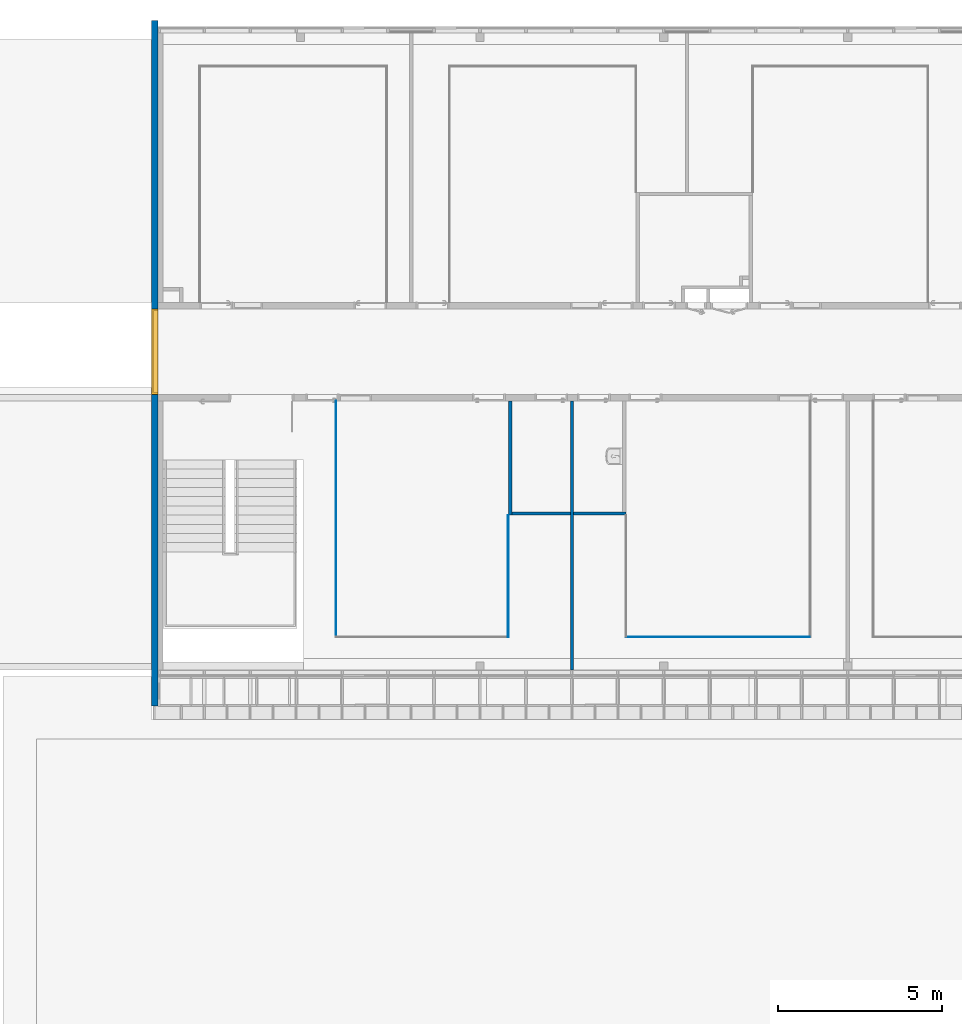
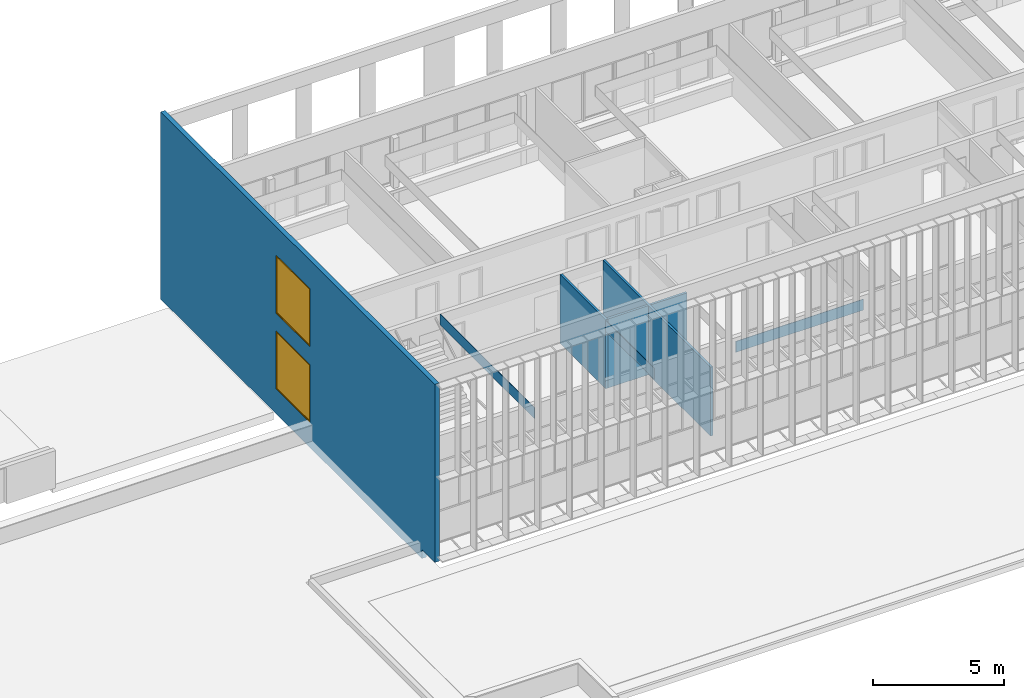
"""IFC2X3 building model written with IfcOpenShell, lengths in centimetres."""

import ifcopenshell
import ifcopenshell.guid

model = None  # the IFC model being written
_history = None  # IfcOwnerHistory: only IFC2X3 demands one
_inside = {}  # id of a spatial element -> (the spatial element, [elements in it])
_under = {}  # id of a project, library or spatial element -> (it, [spatial elements below it])
_declared = {}  # id of a project -> (the project, [libraries it declares])
_typed = {}  # id of a type object -> (the type object, [elements of that type])
_made_of = {}  # id of a material, layer set ... -> (it, [elements and type objects made of it])


def new_model(schema):
    """Start an empty IFC model of exactly this schema.

    Asked for "IFC4X3", IfcOpenShell would pick the latest addendum, in which some entities
    have other attributes; the version numbers below select the first issue.
    IFC2X3 requires an IfcOwnerHistory on every rooted entity: one is made here for all.
    """
    global model, _history
    if schema == "IFC4X3":
        model = ifcopenshell.file(schema_version=(4, 3, 0, 0))
    else:
        model = ifcopenshell.file(schema=schema)
    _inside.clear()
    _under.clear()
    _declared.clear()
    _typed.clear()
    _made_of.clear()
    _history = None
    if model.schema == "IFC2X3":
        org = make("IfcOrganization", Name="unknown")
        user = make(
            "IfcPersonAndOrganization",
            ThePerson=make("IfcPerson", FamilyName="unknown"),
            TheOrganization=org,
        )
        app = make(
            "IfcApplication",
            ApplicationDeveloper=org,
            Version="unknown",
            ApplicationFullName="unknown",
            ApplicationIdentifier="unknown",
        )
        _history = make(
            "IfcOwnerHistory",
            OwningUser=user,
            OwningApplication=app,
            ChangeAction="ADDED",
            CreationDate=0,
        )
    return model


def make(cls, **values):
    """One entity of the class cls with the attributes given. An attribute that is None is left unset."""
    return model.create_entity(
        cls, **{name: value for name, value in values.items() if value is not None}
    )


def entity(cls, *values):
    """Any entity or typed value of the class cls, its attributes in the order of the schema. None: left unset."""
    e = model.create_entity(cls)
    for i, value in enumerate(values):
        if value is not None:
            e[i] = value
    return e


def rooted(cls, **values):
    """An entity with a GlobalId (a new one), such as an element, a storey or a relation."""
    return make(cls, GlobalId=ifcopenshell.guid.new(), OwnerHistory=_history, **values)


def si_unit(unit_type, name, prefix=None):
    """IfcSIUnit, for example si_unit("LENGTHUNIT", "METRE", prefix="MILLI")."""
    return make("IfcSIUnit", UnitType=unit_type, Prefix=prefix, Name=name)


def converted_unit(unit_type, name, factor, base, dimensions=None, offset=None):
    """IfcConversionBasedUnit, such as the inch: factor (a typed value) times the base unit."""
    return make(
        "IfcConversionBasedUnit"
        if offset is None
        else "IfcConversionBasedUnitWithOffset",
        ConversionOffset=offset,
        Dimensions=None
        if dimensions is None
        else entity("IfcDimensionalExponents", *dimensions),
        UnitType=unit_type,
        Name=name,
        ConversionFactor=make(
            "IfcMeasureWithUnit", ValueComponent=factor, UnitComponent=base
        ),
    )


def derived_unit(unit_type, elements):
    """IfcDerivedUnit: a product of units, each with its exponent."""
    return make(
        "IfcDerivedUnit",
        Elements=[
            make("IfcDerivedUnitElement", Unit=unit, Exponent=power)
            for unit, power in elements
        ],
        UnitType=unit_type,
    )


def assignment(units):
    """IfcUnitAssignment: the units of a project."""
    return None if units is None else make("IfcUnitAssignment", Units=units)


def point(xyz):
    """IfcCartesianPoint."""
    return None if xyz is None else make("IfcCartesianPoint", Coordinates=xyz)


def direction(xyz):
    """IfcDirection."""
    return None if xyz is None else make("IfcDirection", DirectionRatios=xyz)


def frame(location, z_axis=None, x_axis=None):
    """IfcAxis2Placement3D, a coordinate frame: its origin and axes. An axis left out is left unset."""
    return make(
        "IfcAxis2Placement3D",
        Location=point(location),
        Axis=direction(z_axis),
        RefDirection=direction(x_axis),
    )


def frame_2d(location, x_axis=None):
    """IfcAxis2Placement2D, a coordinate frame in the plane: its origin and x axis."""
    return make(
        "IfcAxis2Placement2D", Location=point(location), RefDirection=direction(x_axis)
    )


def origin():
    """The frame at (0, 0, 0) with its axes left unset."""
    return frame((0.0, 0.0, 0.0))


def place(relative_to, where):
    """IfcLocalPlacement: puts the frame where relative to a parent placement (None: the world)."""
    return make(
        "IfcLocalPlacement", PlacementRelTo=relative_to, RelativePlacement=where
    )


def context(
    kind, dimensions, precision=None, world=None, true_north=None, identifier=None
):
    """IfcGeometricRepresentationContext, for example the 3D "Model" context."""
    return make(
        "IfcGeometricRepresentationContext",
        ContextIdentifier=identifier,
        ContextType=kind,
        CoordinateSpaceDimension=dimensions,
        Precision=precision,
        WorldCoordinateSystem=world,
        TrueNorth=true_north,
    )


def subcontext(parent, identifier, kind, view, scale=None):
    """IfcGeometricRepresentationSubContext, for example "Body" below "Model"."""
    return make(
        "IfcGeometricRepresentationSubContext",
        ContextIdentifier=identifier,
        ContextType=kind,
        ParentContext=parent,
        TargetScale=scale,
        TargetView=view,
    )


def project(units=None, contexts=None):
    """IfcProject with its units and contexts."""
    return rooted(
        "IfcProject",
        Name="project",
        RepresentationContexts=contexts,
        UnitsInContext=assignment(units),
    )


def spatial(cls, under=None, at=None, **own):
    """A site, building, storey or space (cls), placed at a placement, below another one or the project."""
    s = rooted(cls, ObjectPlacement=at, **own)
    if under is not None:
        _under.setdefault(under.id(), (under, []))[1].append(s)
    return s


def polyline(points):
    """IfcPolyline through the points."""
    return make("IfcPolyline", Points=[point(p) for p in points])


def profile(cls, at=None, kind="AREA", **sizes):
    """A parametric profile (cls). Its sizes go by their IFC names, for example OverallWidth=200.0."""
    return make(cls, ProfileType=kind, Position=at, **sizes)


def rectangle(**sizes):
    """IfcRectangleProfileDef."""
    return profile("IfcRectangleProfileDef", **sizes)


def extrude(swept, where, along, depth):
    """IfcExtrudedAreaSolid: the profile swept, set in the frame where, extruded along a direction by depth."""
    return make(
        "IfcExtrudedAreaSolid",
        SweptArea=swept,
        Position=where,
        ExtrudedDirection=direction(along),
        Depth=depth,
    )


def clip(a, b, op="DIFFERENCE"):
    """IfcBooleanClippingResult: the solid a cut by the half space b."""
    return make(
        "IfcBooleanClippingResult", Operator=op, FirstOperand=a, SecondOperand=b
    )


def bounded_halfspace(plane, agree, where, boundary):
    """IfcPolygonalBoundedHalfSpace: a half space limited to a polygon's prism."""
    return make(
        "IfcPolygonalBoundedHalfSpace",
        BaseSurface=make("IfcPlane", Position=plane),
        AgreementFlag=agree,
        Position=where,
        PolygonalBoundary=boundary,
    )


def faces_of(points, faces, orient=None, outer=None):
    """IfcFace entities. A face is a list of loops; a loop is a list of indices into points, from 0.

    orient and outer hold one flag for each loop. By default every Orientation is true, the
    first loop of a face is its IfcFaceOuterBound and the others are IfcFaceBound.
    """
    made = []
    for i, loops in enumerate(faces):
        bounds = []
        for j, loop in enumerate(loops):
            is_outer = j == 0 if outer is None else outer[i][j]
            bounds.append(
                make(
                    "IfcFaceOuterBound" if is_outer else "IfcFaceBound",
                    Bound=make("IfcPolyLoop", Polygon=[points[k] for k in loop]),
                    Orientation=True if orient is None else orient[i][j],
                )
            )
        made.append(make("IfcFace", Bounds=bounds))
    return made


def faceted_brep(points, faces, orient=None, outer=None, voids=None):
    """IfcFacetedBrep: a solid bounded by flat faces; with voids (closed shells), ...WithVoids."""
    shared = [point(p) for p in points]
    hull = make("IfcClosedShell", CfsFaces=faces_of(shared, faces, orient, outer))
    if voids is None:
        return make("IfcFacetedBrep", Outer=hull)
    return make(
        "IfcFacetedBrepWithVoids",
        Outer=hull,
        Voids=[
            make(cls, CfsFaces=faces_of(shared, fs, o, b)) for cls, fs, o, b in voids
        ],
    )


def shape(context_of_items, identifier, shape_type, items):
    """IfcShapeRepresentation: the items that make up one representation, for example the "Body"."""
    return make(
        "IfcShapeRepresentation",
        ContextOfItems=context_of_items,
        RepresentationIdentifier=identifier,
        RepresentationType=shape_type,
        Items=items,
    )


def source(mapping_origin, context_of_items, identifier, shape_type, items):
    """IfcRepresentationMap: a shape defined once, which mapped items show again and again."""
    return make(
        "IfcRepresentationMap",
        MappingOrigin=mapping_origin,
        MappedRepresentation=shape(context_of_items, identifier, shape_type, items),
    )


def transform(
    local_origin,
    x_axis=None,
    y_axis=None,
    z_axis=None,
    scale=None,
    scale2=None,
    scale3=None,
    uniform=True,
):
    """IfcCartesianTransformationOperator3D, or its non-uniform kind. x_axis, y_axis, z_axis: its Axis1, 2, 3."""
    if uniform:
        return make(
            "IfcCartesianTransformationOperator3D",
            Axis1=direction(x_axis),
            Axis2=direction(y_axis),
            LocalOrigin=point(local_origin),
            Scale=scale,
            Axis3=direction(z_axis),
        )
    return make(
        "IfcCartesianTransformationOperator3DnonUniform",
        Axis1=direction(x_axis),
        Axis2=direction(y_axis),
        LocalOrigin=point(local_origin),
        Scale=scale,
        Axis3=direction(z_axis),
        Scale2=scale2,
        Scale3=scale3,
    )


def mapped(mapping_source, mapping_target):
    """IfcMappedItem: shows the shape of a source again, moved by a transform."""
    return make(
        "IfcMappedItem", MappingSource=mapping_source, MappingTarget=mapping_target
    )


def material(Name=None, Category=None):
    """IfcMaterial."""
    return make("IfcMaterial", Name=Name, Category=Category)


def material_list(materials):
    """IfcMaterialList."""
    return make("IfcMaterialList", Materials=materials)


def layer(
    of_material, thickness, ventilated=None, Name=None, Category=None, Priority=None
):
    """IfcMaterialLayer: one layer of a wall or slab, of a material (None: an air gap)."""
    return make(
        "IfcMaterialLayer",
        Material=of_material,
        LayerThickness=thickness,
        IsVentilated=ventilated,
        Name=Name,
        Category=Category,
        Priority=Priority,
    )


def layer_set(layers, Name=None):
    """IfcMaterialLayerSet."""
    return make("IfcMaterialLayerSet", MaterialLayers=layers, LayerSetName=Name)


def layer_usage(for_layer_set, set_direction, sense, offset, extent=None):
    """IfcMaterialLayerSetUsage: how a layer set lies in its element."""
    return make(
        "IfcMaterialLayerSetUsage",
        ForLayerSet=for_layer_set,
        LayerSetDirection=set_direction,
        DirectionSense=sense,
        OffsetFromReferenceLine=offset,
        ReferenceExtent=extent,
    )


def made_of(thing, what):
    """Note that an element or type object is made of a material, layer set ...; save() writes the relation."""
    if what is not None:
        _made_of.setdefault(what.id(), (what, []))[1].append(thing)
    return thing


def type_object(cls, material=None, **own):
    """A type object (cls), such as IfcWallType, which elements share."""
    return made_of(rooted(cls, **own), material)


def type_shapes(of_type, sources):
    """Give a type object the sources (RepresentationMaps) that its elements show as mapped items."""
    of_type.RepresentationMaps = sources


def element(
    cls,
    number,
    at=None,
    inside=None,
    cuts=None,
    type_object=None,
    material=None,
    context=None,
    identifier="Body",
    shape_type=None,
    held_by="IfcProductDefinitionShape",
    body=None,
    shapes=None,
    **own,
):
    """One element of the class cls, such as IfcWall. Its Tag is "e" and its number.

    at: its placement. inside: the storey or other place that contains it. cuts: it is an
    opening in that element (IfcRelVoidsElement). A single representation is given by context,
    identifier, shape_type and body (its items); several are given by shapes. held_by: the class
    of the entity that holds the representations. save() writes the other relations.
    """
    e = rooted(cls, Tag="e%d" % number, ObjectPlacement=at, **own)
    if body is not None:
        shapes = [shape(context, identifier, shape_type, body)]
    if shapes is not None:
        e.Representation = make(held_by, Representations=shapes)
    if inside is not None:
        _inside.setdefault(inside.id(), (inside, []))[1].append(e)
    if cuts is not None:
        rooted(
            "IfcRelVoidsElement", RelatingBuildingElement=cuts, RelatedOpeningElement=e
        )
    if type_object is not None:
        _typed.setdefault(type_object.id(), (type_object, []))[1].append(e)
    return made_of(e, material)


def fill(opening, filler):
    """IfcRelFillsElement: the door or window that sits in an opening."""
    return rooted(
        "IfcRelFillsElement",
        RelatingOpeningElement=opening,
        RelatedBuildingElement=filler,
    )


def aggregate(whole, parts):
    """IfcRelAggregates: a whole, such as a stair, and the parts it consists of."""
    return rooted("IfcRelAggregates", RelatingObject=whole, RelatedObjects=parts)


def save(model, path):
    """Write the relations noted so far, then the file.

    IfcRelAggregates (storeys below a building ...), IfcRelContainedInSpatialStructure (elements
    in a storey), IfcRelDefinesByType, IfcRelAssociatesMaterial and IfcRelDeclares: one each for
    every whole, place, type object, material and project.
    """
    for whole, parts in _under.values():
        aggregate(whole, parts)
    for where, things in _inside.values():
        rooted(
            "IfcRelContainedInSpatialStructure",
            RelatedElements=things,
            RelatingStructure=where,
        )
    for kind, things in _typed.values():
        rooted("IfcRelDefinesByType", RelatedObjects=things, RelatingType=kind)
    for what, things in _made_of.values():
        rooted("IfcRelAssociatesMaterial", RelatedObjects=things, RelatingMaterial=what)
    for by, libraries in _declared.values():
        rooted("IfcRelDeclares", RelatingContext=by, RelatedDefinitions=libraries)
    model.write(path)


model = new_model("IFC2X3")

# Units and contexts
model_context = context("Model", 3, precision=0.001, world=origin(), true_north=direction((6.12303176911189e-17, 1.0)))
body_context = subcontext(model_context, "Body", "Model", "MODEL_VIEW")
ifc_project = project(units=[si_unit("LENGTHUNIT", "METRE", prefix="CENTI"), si_unit("AREAUNIT", "SQUARE_METRE"), si_unit("VOLUMEUNIT", "CUBIC_METRE"), converted_unit("PLANEANGLEUNIT", "DEGREE", entity("IfcRatioMeasure", 0.0174532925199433), si_unit("PLANEANGLEUNIT", "RADIAN"), dimensions=[0, 0, 0, 0, 0, 0, 0]), si_unit("MASSUNIT", "GRAM", prefix="KILO"), derived_unit("MASSDENSITYUNIT", [(si_unit("MASSUNIT", "GRAM", prefix="KILO"), 1), (si_unit("LENGTHUNIT", "METRE"), -3)]), si_unit("TIMEUNIT", "SECOND"), si_unit("FREQUENCYUNIT", "HERTZ"), si_unit("THERMODYNAMICTEMPERATUREUNIT", "DEGREE_CELSIUS"), derived_unit("THERMALTRANSMITTANCEUNIT", [(si_unit("MASSUNIT", "GRAM", prefix="KILO"), 1), (si_unit("THERMODYNAMICTEMPERATUREUNIT", "KELVIN"), -1), (si_unit("TIMEUNIT", "SECOND"), -3)]), derived_unit("VOLUMETRICFLOWRATEUNIT", [(si_unit("LENGTHUNIT", "METRE"), 3), (si_unit("TIMEUNIT", "SECOND"), -1)]), si_unit("ELECTRICCURRENTUNIT", "AMPERE"), si_unit("ELECTRICVOLTAGEUNIT", "VOLT"), si_unit("POWERUNIT", "WATT"), si_unit("FORCEUNIT", "NEWTON", prefix="KILO"), si_unit("ILLUMINANCEUNIT", "LUX"), si_unit("LUMINOUSFLUXUNIT", "LUMEN"), si_unit("LUMINOUSINTENSITYUNIT", "CANDELA"), derived_unit("USERDEFINED", [(si_unit("MASSUNIT", "GRAM", prefix="KILO"), -1), (si_unit("LENGTHUNIT", "METRE"), -2), (si_unit("TIMEUNIT", "SECOND"), 3), (si_unit("LUMINOUSFLUXUNIT", "LUMEN"), 1)]), derived_unit("LINEARVELOCITYUNIT", [(si_unit("LENGTHUNIT", "METRE"), 1), (si_unit("TIMEUNIT", "SECOND"), -1)]), si_unit("PRESSUREUNIT", "PASCAL"), derived_unit("USERDEFINED", [(si_unit("LENGTHUNIT", "METRE"), -2), (si_unit("MASSUNIT", "GRAM", prefix="KILO"), 1), (si_unit("TIMEUNIT", "SECOND"), -2)])], contexts=[model_context])

# Site, building, storey
site_placement = place(None, frame((-2781.94577612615, 7442.24238424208, 0.0)))
site = spatial("IfcSite", under=ifc_project, at=site_placement, Name="Default", CompositionType="ELEMENT")
building_placement = place(site_placement, origin())
building = spatial("IfcBuilding", under=site, at=building_placement, CompositionType="ELEMENT")
storey_1_placement = place(building_placement, frame((0.0, 0.0, 422.0)))
storey_1 = spatial("IfcBuildingStorey", under=building, at=storey_1_placement, Name="Toiture - Cuisine", CompositionType="ELEMENT", Elevation=421.999999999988)

# Wall, openings, window
ifc_material_1 = material(Name="01 - Maçonnerie")
ifc_layer_1 = layer(ifc_material_1, 20.0)
ifc_layer_set_1 = layer_set([ifc_layer_1], Name="Mur de base:04 - Structure - béton - 20cm")
ifc_layer_usage_1 = layer_usage(ifc_layer_set_1, "AXIS2", "NEGATIVE", 10.0)
wall_type_1 = type_object("IfcWallType", Name="Mur de base:04 - Structure - béton - 20cm", PredefinedType="STANDARD", material=ifc_layer_set_1)
wall_1_placement = place(building_placement, frame((-8419.49987766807, -2040.07903364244, 306.0), z_axis=(0.0, 0.0, 1.0), x_axis=(0.0, 1.0, 0.0)))
wall_1 = element("IfcWallStandardCase", 1, at=wall_1_placement, inside=storey_1, type_object=wall_type_1, material=ifc_layer_usage_1, Name="Mur de base:04 - Structure - béton - 20cm", ObjectType="Mur de base:04 - Structure - béton - 20cm", context=body_context, shape_type="SweptSolid", body=[
    extrude(rectangle(XDim=2088.55021768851, YDim=19.9999999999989, at=frame_2d((1044.27510884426, -6.48370246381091e-14), x_axis=(-1.0, 0.0))), origin(), (0.0, 0.0, 1.0), 870.000000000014),
])
opening_1_placement = place(wall_1_placement, origin())
element("IfcOpeningElement", 2, at=opening_1_placement, cuts=wall_1, Name="Mur de base:04 - Structure - béton - 20cm:4570", ObjectType="Opening", context=body_context, shape_type="SweptSolid", body=[
    extrude(rectangle(XDim=41.9999999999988, YDim=99.9999999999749, at=frame_2d((-1.08357767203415e-13, -1.10134124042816e-13), x_axis=(1.0, 0.0))), frame((50.0, 10.0, 21.0), z_axis=(0.0, -1.0, 0.0), x_axis=(0.0, 0.0, 1.0)), (0.0, 0.0, 1.0), 20.0),
])
opening_2_placement = place(wall_1_placement, frame((1210.03053265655, 10.0, 116.0)))
opening_2 = element("IfcOpeningElement", 3, at=opening_2_placement, cuts=wall_1, Name="châssis intérieur vitré:R+1 - Pignon -  châssis intérieur vitré (2,70m):1", ObjectType="Opening", context=body_context, shape_type="SweptSolid", body=[
    extrude(rectangle(XDim=270.0, YDim=259.951498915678, at=frame_2d((135.0, 129.975749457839), x_axis=(1.0, 0.0))), frame((0.0, 0.0, 0.0), z_axis=(0.0, -1.0, 0.0), x_axis=(0.0, 0.0, 1.0)), (0.0, 0.0, 1.0), 20.0),
])
opening_3_placement = place(wall_1_placement, frame((1210.03053265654, 10.0, 468.0)))
opening_3 = element("IfcOpeningElement", 4, at=opening_3_placement, cuts=wall_1, Name="châssis intérieur vitré:R+1 - Pignon -  châssis intérieur vitré (2,70m):1", ObjectType="Opening", context=body_context, shape_type="SweptSolid", body=[
    extrude(rectangle(XDim=270.0, YDim=259.951498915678, at=frame_2d((135.0, 129.975749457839), x_axis=(1.0, 0.0))), frame((0.0, 0.0, 0.0), z_axis=(0.0, -1.0, 0.0), x_axis=(0.0, 0.0, 1.0)), (0.0, 0.0, 1.0), 20.0),
])
ifc_material_2 = material(Name="Verre")
ifc_material_3 = material(Name="huisserie bois")
ifc_material_list_1 = material_list([ifc_material_2, ifc_material_3])
ifc_material_list_2 = material_list([ifc_material_2, ifc_material_3])
window_style = type_object("IfcWindowStyle", Name="R+1 - Pignon -  châssis intérieur vitré (2,70m)", ConstructionType="NOTDEFINED", OperationType="NOTDEFINED", ParameterTakesPrecedence=False, Sizeable=False, material=ifc_material_list_2)
shared_shape = source(origin(), body_context, "Body", "Brep", [
    faceted_brep([(256.951498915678, 5.0, 267.0), (256.951498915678, 5.0, 3.0), (3.0, 5.0, 3.0), (3.0, 5.0, 267.0), (256.951498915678, 2.0, 267.0), (256.951498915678, 2.0, 3.0), (3.0, 2.0, 3.0), (3.0, 2.0, 267.0)], [[[0, 1, 2, 3]], [[1, 0, 4, 5]], [[2, 1, 5, 6]], [[3, 2, 6, 7]], [[4, 7, 6, 5]], [[0, 3, 7, 4]]]),
    faceted_brep([(256.951498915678, 2.0, 267.0), (256.951498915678, 0.0, 267.0), (256.951498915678, 0.0, 3.0), (256.951498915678, 2.0, 3.0), (254.951498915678, 0.0, 5.0), (5.0, 0.0, 5.0), (5.0, 0.0, 265.0), (254.951498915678, 0.0, 265.0), (3.0, 0.0, 267.0), (3.0, 0.0, 3.0), (3.0, 2.0, 3.0), (3.0, 2.0, 267.0), (254.951498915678, 2.0, 265.0), (5.0, 2.0, 265.0), (5.0, 2.0, 5.0), (254.951498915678, 2.0, 5.0)], [[[0, 1, 2, 3]], [[4, 5, 6, 7], [1, 8, 9, 2]], [[3, 2, 9, 10]], [[3, 10, 11, 0], [12, 13, 14, 15]], [[7, 12, 15, 4]], [[4, 15, 14, 5]], [[10, 9, 8, 11]], [[5, 14, 13, 6]], [[11, 8, 1, 0]], [[6, 13, 12, 7]]], outer=[[True], [False, True], [True], [True, False], [True], [True], [True], [True], [True], [True]]),
    faceted_brep([(254.951498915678, 5.0, 265.0), (254.951498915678, 20.0, 265.0), (254.951498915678, 20.0, 5.0), (254.951498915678, 5.0, 5.0), (259.951498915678, 20.0, 0.0), (0.0, 20.0, 0.0), (0.0, 20.0, 270.0), (259.951498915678, 20.0, 270.0), (5.0, 20.0, 265.0), (5.0, 20.0, 5.0), (5.0, 5.0, 5.0), (5.0, 5.0, 265.0), (256.951498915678, 5.0, 267.0), (3.0, 5.0, 267.0), (3.0, 5.0, 3.0), (256.951498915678, 5.0, 3.0), (256.951498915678, 0.0, 267.0), (256.951498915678, 0.0, 3.0), (3.0, 0.0, 3.0), (3.0, 0.0, 267.0), (259.951498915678, 0.0, 270.0), (0.0, 0.0, 270.0), (0.0, 0.0, 0.0), (259.951498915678, 0.0, 0.0)], [[[0, 1, 2, 3]], [[4, 5, 6, 7], [1, 8, 9, 2]], [[3, 2, 9, 10]], [[3, 10, 11, 0], [12, 13, 14, 15]], [[16, 12, 15, 17]], [[17, 15, 14, 18]], [[17, 18, 19, 16], [20, 21, 22, 23]], [[7, 20, 23, 4]], [[4, 23, 22, 5]], [[10, 9, 8, 11]], [[18, 14, 13, 19]], [[5, 22, 21, 6]], [[11, 8, 1, 0]], [[19, 13, 12, 16]], [[6, 21, 20, 7]]], outer=[[True], [True, False], [True], [False, True], [True], [True], [False, True], [True], [True], [True], [True], [True], [True], [True], [True]]),
])
type_shapes(window_style, [shared_shape])
window_1_placement = place(opening_2_placement, frame((0.0, 0.0, 0.0), z_axis=(0.0, 0.0, 1.0), x_axis=(-1.0, 0.0, 0.0)))
window_1 = element("IfcWindow", 5, at=window_1_placement, inside=storey_1, type_object=window_style, material=ifc_material_list_1, Name="châssis intérieur vitré:R+1 - Pignon -  châssis intérieur vitré (2,70m)", ObjectType="châssis intérieur vitré:R+1 - Pignon -  châssis intérieur vitré (2,70m)", OverallHeight=270.0, OverallWidth=259.951498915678, context=body_context, shape_type="MappedRepresentation", body=[
    mapped(shared_shape, transform((0.0, 0.0, 0.0), scale=1.0)),
])
fill(opening_2, window_1)

# Storey
storey_2_placement = place(building_placement, frame((0.0, 0.0, 774.0)))
storey_2 = spatial("IfcBuildingStorey", under=building, at=storey_2_placement, Name="TR - N02 - ARCH", CompositionType="ELEMENT", Elevation=774.0)

# Window
ifc_material_list_3 = material_list([ifc_material_2, ifc_material_3])
window_2_placement = place(opening_3_placement, frame((0.0, 0.0, 0.0), z_axis=(0.0, 0.0, 1.0), x_axis=(-1.0, 0.0, 0.0)))
window_2 = element("IfcWindow", 6, at=window_2_placement, inside=storey_2, type_object=window_style, material=ifc_material_list_3, Name="châssis intérieur vitré:R+1 - Pignon -  châssis intérieur vitré (2,70m)", ObjectType="châssis intérieur vitré:R+1 - Pignon -  châssis intérieur vitré (2,70m)", OverallHeight=270.0, OverallWidth=259.951498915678, context=body_context, shape_type="MappedRepresentation", body=[
    mapped(shared_shape, transform((0.0, 0.0, 0.0), scale=1.0)),
])

fill(opening_3, window_2)

# Walls
ifc_material_4 = material(Name="01 - Enduit/Plâtre")
ifc_layer_2 = layer(ifc_material_4, 1.3)
ifc_material_5 = material(Name="00 - Isolant")
ifc_layer_3 = layer(ifc_material_5, 7.4)
ifc_layer_4 = layer(ifc_material_4, 1.3)
ifc_layer_set_2 = layer_set([ifc_layer_2, ifc_layer_3, ifc_layer_4], Name="Mur de base:06 - cloisons - Ba13 10cm")
ifc_layer_usage_2 = layer_usage(ifc_layer_set_2, "AXIS2", "NEGATIVE", 5.0)
wall_type_2 = type_object("IfcWallType", Name="Mur de base:06 - cloisons - Ba13 10cm", PredefinedType="STANDARD", material=ifc_layer_set_2)
wall_2_placement = place(building_placement, frame((-7149.49987763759, -1110.0, 422.0), z_axis=(0.0, 0.0, 1.0), x_axis=(0.0, -1.0, 0.0)))
element("IfcWallStandardCase", 7, at=wall_2_placement, inside=storey_1, type_object=wall_type_2, material=ifc_layer_usage_2, Name="Mur de base:06 - cloisons - Ba13 10cm", ObjectType="Mur de base:06 - cloisons - Ba13 10cm", context=body_context, shape_type="Clipping", body=[
    clip(extrude(rectangle(XDim=820.079033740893, YDim=9.99999999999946, at=frame_2d((410.039516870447, 0.0), x_axis=(-1.0, 0.0))), origin(), (0.0, 0.0, 1.0), 321.0), bounded_halfspace(frame((0.0, -5.0, 321.0), z_axis=(0.0, 0.0, -1.0), x_axis=(-1.0, 0.0, 0.0)), True, frame((0.0, -5.0, 321.0)), polyline([(0.0, 0.0), (338.0, 0.0), (348.0, 0.0), (800.079033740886, 0.0), (800.079033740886, 10.0), (348.0, 10.0), (338.0, 10.0), (0.0, 10.0), (0.0, 0.0)]))),
])
ifc_layer_usage_3 = layer_usage(ifc_layer_set_2, "AXIS2", "NEGATIVE", 5.0)
wall_3_placement = place(building_placement, frame((-7337.49987760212, -1110.0, 422.0), z_axis=(0.0, 0.0, 1.0), x_axis=(0.0, -1.0, 0.0)))
element("IfcWallStandardCase", 8, at=wall_3_placement, inside=storey_1, type_object=wall_type_2, material=ifc_layer_usage_3, Name="Mur de base:06 - cloisons - Ba13 10cm", ObjectType="Mur de base:06 - cloisons - Ba13 10cm", context=body_context, shape_type="Clipping", body=[
    clip(extrude(rectangle(XDim=348.000000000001, YDim=9.99999999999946, at=frame_2d((174.0, 0.0), x_axis=(-1.0, 0.0))), origin(), (0.0, 0.0, 1.0), 321.0), bounded_halfspace(frame((0.0, -5.0, 321.0), z_axis=(0.0, 0.0, -1.0), x_axis=(-1.0, 0.0, 0.0)), True, frame((0.0, -5.0, 321.0)), polyline([(0.0, 0.0), (348.0, 0.0), (348.0, 10.0), (338.0, 10.0), (0.0, 10.0), (0.0, 0.0)]))),
])
wall_4_placement = place(building_placement, frame((-7332.49987760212, -1453.0, 422.0)))
element("IfcWall", 9, at=wall_4_placement, inside=storey_1, type_object=wall_type_2, Name="Mur de base:06 - cloisons - Ba13 10cm", ObjectType="Mur de base:06 - cloisons - Ba13 10cm", context=body_context, shape_type="SweptSolid", body=[
    extrude(rectangle(XDim=177.999999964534, YDim=10.0000000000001, at=frame_2d((-4.33431068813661e-13, 1.08357767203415e-13), x_axis=(1.0, 0.0))), frame((89.0, 0.0, 0.0)), (0.0, 0.0, 1.0), 321.0),
    extrude(rectangle(XDim=159.000000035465, YDim=10.0000000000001, at=frame_2d((13.9000000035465, 1.0000000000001), x_axis=(1.0, 0.0))), frame((281.399999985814, 1.0, 0.0), z_axis=(0.0, 0.0, 1.0), x_axis=(-1.0, 0.0, 0.0)), (0.0, 0.0, 1.0), 321.0),
])
ifc_layer_5 = layer(ifc_material_4, 1.3)
ifc_material_6 = material(Name="00 - VIDE D'AIR")
ifc_layer_6 = layer(ifc_material_6, 0.7)
ifc_layer_set_3 = layer_set([ifc_layer_5, ifc_layer_6], Name="Mur de base:06 - habillage Ba13 collée 2cm")
ifc_layer_usage_4 = layer_usage(ifc_layer_set_3, "AXIS2", "NEGATIVE", 1.0)
wall_type_3 = type_object("IfcWallType", Name="Mur de base:06 - habillage Ba13 collée 2cm", PredefinedType="STANDARD", material=ifc_layer_set_3)
wall_5_placement = place(building_placement, frame((-6424.49987760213, -1829.07903364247, 692.0), z_axis=(0.0, 0.0, 1.0), x_axis=(-1.0, 0.0, 0.0)))
element("IfcWallStandardCase", 10, at=wall_5_placement, inside=storey_1, type_object=wall_type_3, material=ifc_layer_usage_4, Name="Mur de base:06 - habillage Ba13 collée 2cm", ObjectType="Mur de base:06 - habillage Ba13 collée 2cm", context=body_context, shape_type="Clipping", body=[
    clip(extrude(rectangle(XDim=560.999999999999, YDim=1.99999999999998, at=frame_2d((280.499999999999, 1.41553435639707e-14), x_axis=(-1.0, 0.0))), origin(), (0.0, 0.0, 1.0), 50.9999999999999), bounded_halfspace(frame((0.0, -1.0, 51.0), z_axis=(0.0, 0.0, -1.0), x_axis=(0.0, -1.0, 0.0)), True, frame((0.0, -1.0, 51.0)), polyline([(0.0, 0.0), (559.0, 0.0), (561.0, 0.0), (561.0, 2.0), (0.0, 2.0), (0.0, 0.0)]))),
])
ifc_layer_usage_5 = layer_usage(ifc_layer_set_3, "AXIS2", "NEGATIVE", 1.0)
wall_6_placement = place(building_placement, frame((-7343.49987760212, -1458.0, 692.0), z_axis=(0.0, 0.0, 1.0), x_axis=(0.0, -1.0, 0.0)))
element("IfcWallStandardCase", 11, at=wall_6_placement, inside=storey_1, type_object=wall_type_3, material=ifc_layer_usage_5, Name="Mur de base:06 - habillage Ba13 collée 2cm", ObjectType="Mur de base:06 - habillage Ba13 collée 2cm", context=body_context, shape_type="Clipping", body=[
    clip(extrude(rectangle(XDim=372.079033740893, YDim=1.99999999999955, at=frame_2d((186.039516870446, 1.16573417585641e-15), x_axis=(-1.0, 0.0))), origin(), (0.0, 0.0, 1.0), 50.9999999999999), bounded_halfspace(frame((0.0, -1.0, 51.0), z_axis=(0.0, 0.0, -1.0), x_axis=(-1.0, 0.0, 0.0)), True, frame((0.0, -1.0, 51.0)), polyline([(0.0, 0.0), (370.079033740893, 0.0), (372.079033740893, 0.0), (372.079033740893, 2.0), (0.0, 2.0), (0.0, 0.0)]))),
])
ifc_layer_usage_6 = layer_usage(ifc_layer_set_3, "AXIS2", "NEGATIVE", 1.0)
wall_7_placement = place(building_placement, frame((-7868.50004166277, -1828.07903364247, 692.0), z_axis=(0.0, 0.0, 1.0), x_axis=(0.0, 1.0, 0.0)))
element("IfcWallStandardCase", 12, at=wall_7_placement, inside=storey_1, type_object=wall_type_3, material=ifc_layer_usage_6, Name="Mur de base:06 - habillage Ba13 collée 2cm", ObjectType="Mur de base:06 - habillage Ba13 collée 2cm", context=body_context, shape_type="Clipping", body=[
    clip(extrude(rectangle(XDim=718.079033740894, YDim=1.99999999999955, at=frame_2d((359.039516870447, -1.42663658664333e-14), x_axis=(-1.0, 0.0))), origin(), (0.0, 0.0, 1.0), 50.9999999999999), bounded_halfspace(frame((0.0, -1.0, 51.0), z_axis=(0.0, 0.0, -1.0), x_axis=(1.0, 0.0, 0.0)), True, frame((0.0, -1.0, 51.0)), polyline([(0.0, 0.0), (718.079033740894, 0.0), (718.079033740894, 2.0), (0.0, 2.0), (0.0, 0.0)]))),
])

save(model, "model.ifc")
